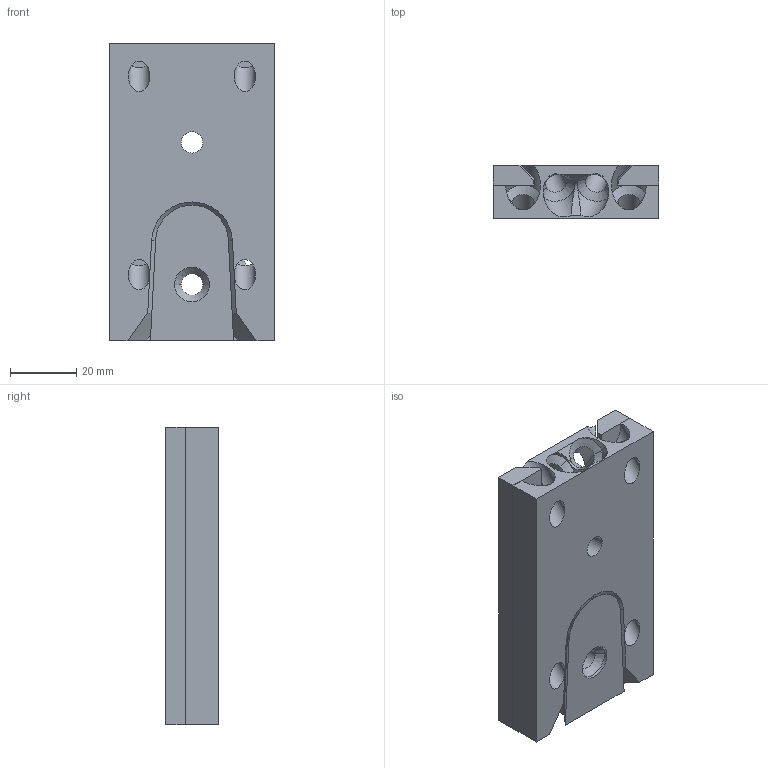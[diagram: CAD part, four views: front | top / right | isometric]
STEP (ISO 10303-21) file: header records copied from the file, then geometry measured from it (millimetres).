
FILE_DESCRIPTION(('STEP AP242'),'1');
FILE_NAME('OPO_86.880.30_volu_schn_3d.stp','2026-04-30T13:30:17',(' '),(' '),'Spatial InterOp 3D',' ',' ');
FILE_SCHEMA(('AP242_MANAGED_MODEL_BASED_3D_ENGINEERING_MIM_LF {1 0 10303 442 1 1 4}'));
Length unit declared in the file: millimetre
Products named in the file (1): 1
Bounding box: 50 x 16 x 90 mm (x, y, z)
Volume: 63641.4 mm3; surface area: 24605 mm2
Topology: 2 solids, 2 shells, 178 faces, 1017 edges, 1384 vertices
Faces by surface type: cylinder 80, plane 66, cone 30, bspline 2
Entity records: 13957 total; most frequent: CARTESIAN_POINT 1715, DIRECTION 1660, ORIENTED_EDGE 902, STYLED_ITEM 746, PRESENTATION_STYLE_ASSIGNMENT 746, COLOUR_RGB 746, LINE 686, VECTOR 686
